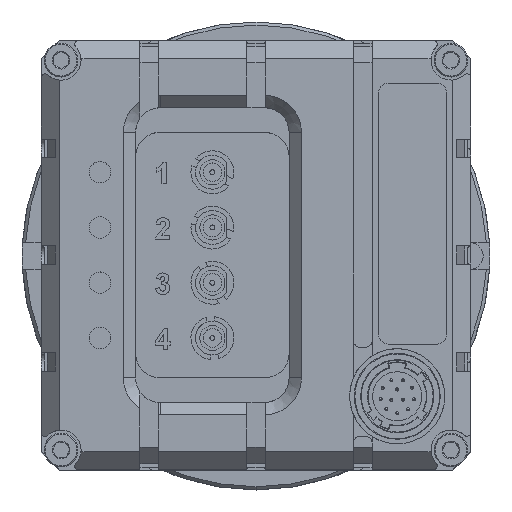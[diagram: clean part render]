
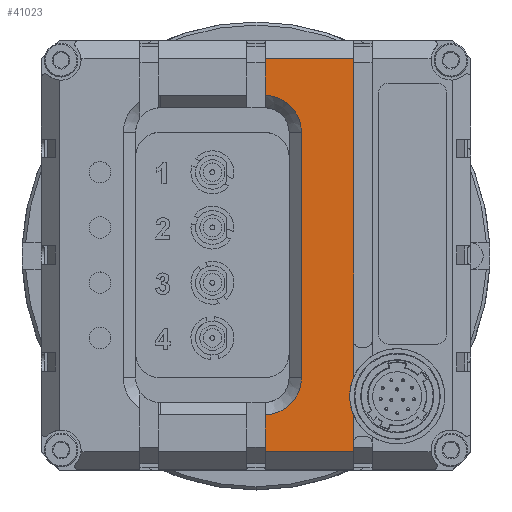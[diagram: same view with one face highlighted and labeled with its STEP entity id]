
A CAD part, top view. The second image highlights one B-rep face of the part: STEP entity #41023.
In plain terms, the highlighted planar face has unit normal (0, 0, 1).
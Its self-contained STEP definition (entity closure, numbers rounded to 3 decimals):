
#2487 = CARTESIAN_POINT ( 'NONE',  ( 1.5, 32., 12. ) ) ;
#3126 = VERTEX_POINT ( 'NONE', #5417 ) ;
#5148 = CARTESIAN_POINT ( 'NONE',  ( 32., -32., 12. ) ) ;
#5417 = CARTESIAN_POINT ( 'NONE',  ( 15.9, -26.107, 12. ) ) ;
#5679 = DIRECTION ( 'NONE',  ( 1., 0., 0. ) ) ;
#6121 = CARTESIAN_POINT ( 'NONE',  ( 1.5, -30., 12. ) ) ;
#6246 = VERTEX_POINT ( 'NONE', #38100 ) ;
#6299 = CARTESIAN_POINT ( 'NONE',  ( 1.5, 25.999, 12. ) ) ;
#6970 = LINE ( 'NONE', #24279, #42531 ) ;
#8362 = EDGE_LOOP ( 'NONE', ( #40048, #19640, #44147, #48280, #38816, #25274, #50206, #41140, #15333, #32442, #10040 ) ) ;
#9246 = VERTEX_POINT ( 'NONE', #57881 ) ;
#9666 = PLANE ( 'NONE',  #31783 ) ;
#10040 = ORIENTED_EDGE ( 'NONE', *, *, #54249, .T. ) ;
#10242 = CIRCLE ( 'NONE', #45947, 7.75 ) ;
#12239 = LINE ( 'NONE', #32776, #17543 ) ;
#14348 = EDGE_CURVE ( 'Defeatured_0_1013+Defeatured_0_1095+Defeatured_0_998+Defeatured_0_1057', #3126, #58111, #29668, .T. ) ;
#14709 = DIRECTION ( 'NONE',  ( -1., 0., 0. ) ) ;
#14725 = CARTESIAN_POINT ( 'NONE',  ( 0., 0., 12. ) ) ;
#14763 = DIRECTION ( 'NONE',  ( 1., 0., 0. ) ) ;
#15333 = ORIENTED_EDGE ( 'NONE', *, *, #45117, .T. ) ;
#15789 = DIRECTION ( 'NONE',  ( 0., 0., 1. ) ) ;
#16064 = LINE ( 'NONE', #38467, #53148 ) ;
#17334 = VECTOR ( 'NONE', #43254, 1000. ) ;
#17543 = VECTOR ( 'NONE', #37215, 1000. ) ;
#18790 = CARTESIAN_POINT ( 'NONE',  ( 15.25, -23., 12. ) ) ;
#19640 = ORIENTED_EDGE ( 'NONE', *, *, #26785, .T. ) ;
#19647 = LINE ( 'NONE', #48204, #28749 ) ;
#19687 = CARTESIAN_POINT ( 'NONE',  ( 23., -23., 12. ) ) ;
#20056 = DIRECTION ( 'NONE',  ( 1., 0., 0. ) ) ;
#20496 = DIRECTION ( 'NONE',  ( 0., 0., -1. ) ) ;
#22629 = AXIS2_PLACEMENT_3D ( 'NONE', #32820, #61107, #23286 ) ;
#23286 = DIRECTION ( 'NONE',  ( 1., 0., 0. ) ) ;
#24279 = CARTESIAN_POINT ( 'NONE',  ( -32., 32., 12. ) ) ;
#24379 = CARTESIAN_POINT ( 'NONE',  ( 15.9, -32., 12. ) ) ;
#24526 = DIRECTION ( 'NONE',  ( 0., -1., 0. ) ) ;
#25274 = ORIENTED_EDGE ( 'NONE', *, *, #49094, .F. ) ;
#25546 = CARTESIAN_POINT ( 'NONE',  ( 1.4, -20., 12. ) ) ;
#25923 = DIRECTION ( 'NONE',  ( 0., -1., 0. ) ) ;
#26690 = CIRCLE ( 'NONE', #46855, 7.75 ) ;
#26785 = EDGE_CURVE ( 'Defeatured_0_1095+Defeatured_0_907+Defeatured_0_908+Defeatured_0_1036', #59040, #35891, #46160, .T. ) ;
#26842 = VERTEX_POINT ( 'NONE', #6299 ) ;
#27040 = CARTESIAN_POINT ( 'NONE',  ( 15.9, -19.893, 12. ) ) ;
#27475 = CARTESIAN_POINT ( 'NONE',  ( 1.5, -25.999, 12. ) ) ;
#28699 = LINE ( 'NONE', #5148, #17334 ) ;
#28749 = VECTOR ( 'NONE', #24526, 1000. ) ;
#29668 = LINE ( 'NONE', #45177, #50089 ) ;
#31783 = AXIS2_PLACEMENT_3D ( 'NONE', #14725, #62518, #43543 ) ;
#32442 = ORIENTED_EDGE ( 'NONE', *, *, #54875, .T. ) ;
#32776 = CARTESIAN_POINT ( 'NONE',  ( 7.4, -20., 12. ) ) ;
#32789 = CIRCLE ( 'NONE', #22629, 6. ) ;
#32820 = CARTESIAN_POINT ( 'NONE',  ( 1.4, 20., 12. ) ) ;
#33342 = EDGE_CURVE ( 'Defeatured_0_1095+Defeatured_0_908+Defeatured_0_909+Defeatured_0_907', #9246, #59040, #12239, .T. ) ;
#35531 = DIRECTION ( 'NONE',  ( 0., -1., 0. ) ) ;
#35573 = CARTESIAN_POINT ( 'NONE',  ( 7.4, -20., 12. ) ) ;
#35891 = VERTEX_POINT ( 'NONE', #27475 ) ;
#37215 = DIRECTION ( 'NONE',  ( 0., -1., 0. ) ) ;
#38100 = CARTESIAN_POINT ( 'NONE',  ( 1.5, -32., 12. ) ) ;
#38467 = CARTESIAN_POINT ( 'NONE',  ( 1.5, -30., 12. ) ) ;
#38816 = ORIENTED_EDGE ( 'NONE', *, *, #14348, .F. ) ;
#38889 = DIRECTION ( 'NONE',  ( 0., -1., 0. ) ) ;
#39915 = VERTEX_POINT ( 'NONE', #27040 ) ;
#40048 = ORIENTED_EDGE ( 'NONE', *, *, #33342, .T. ) ;
#40353 = VECTOR ( 'NONE', #35531, 1000. ) ;
#41023 = ADVANCED_FACE ( 'Defeatured_0_1095', ( #49206 ), #9666, .T. ) ;
#41140 = ORIENTED_EDGE ( 'NONE', *, *, #60289, .F. ) ;
#41500 = EDGE_CURVE ( 'Defeatured_0_1095+Defeatured_0_1057+Defeatured_0_1036+Defeatured_0_1013', #6246, #58111, #28699, .T. ) ;
#42531 = VECTOR ( 'NONE', #14709, 1000. ) ;
#43254 = DIRECTION ( 'NONE',  ( 1., 0., 0. ) ) ;
#43543 = DIRECTION ( 'NONE',  ( 1., 0., 0. ) ) ;
#44017 = EDGE_CURVE ( 'Defeatured_0_998+Defeatured_0_1095+Defeatured_0_1087+Defeatured_0_1013', #39915, #54736, #26690, .T. ) ;
#44147 = ORIENTED_EDGE ( 'NONE', *, *, #44698, .T. ) ;
#44698 = EDGE_CURVE ( 'Defeatured_0_1095+Defeatured_0_1036+Defeatured_0_907+Defeatured_0_1057', #35891, #6246, #55443, .T. ) ;
#45117 = EDGE_CURVE ( 'Defeatured_0_1095+Defeatured_0_1058+Defeatured_0_1087+Defeatured_0_1100', #47566, #60617, #6970, .T. ) ;
#45177 = CARTESIAN_POINT ( 'NONE',  ( 15.9, 30., 12. ) ) ;
#45947 = AXIS2_PLACEMENT_3D ( 'NONE', #54496, #15789, #20056 ) ;
#46160 = CIRCLE ( 'NONE', #51374, 6. ) ;
#46855 = AXIS2_PLACEMENT_3D ( 'NONE', #19687, #58559, #14763 ) ;
#47566 = VERTEX_POINT ( 'NONE', #53565 ) ;
#48204 = CARTESIAN_POINT ( 'NONE',  ( 15.9, 30., 12. ) ) ;
#48280 = ORIENTED_EDGE ( 'NONE', *, *, #41500, .T. ) ;
#49094 = EDGE_CURVE ( 'Defeatured_0_998+Defeatured_0_1095+Defeatured_0_1087+Defeatured_0_1013', #54736, #3126, #10242, .T. ) ;
#49206 = FACE_OUTER_BOUND ( 'NONE', #8362, .T. ) ;
#50089 = VECTOR ( 'NONE', #25923, 1000. ) ;
#50206 = ORIENTED_EDGE ( 'NONE', *, *, #44017, .F. ) ;
#51374 = AXIS2_PLACEMENT_3D ( 'NONE', #25546, #20496, #5679 ) ;
#53148 = VECTOR ( 'NONE', #38889, 1000. ) ;
#53565 = CARTESIAN_POINT ( 'NONE',  ( 15.9, 32., 12. ) ) ;
#54249 = EDGE_CURVE ( 'Defeatured_0_1095+Defeatured_0_909+Defeatured_0_1100+Defeatured_0_908', #26842, #9246, #32789, .T. ) ;
#54496 = CARTESIAN_POINT ( 'NONE',  ( 23., -23., 12. ) ) ;
#54736 = VERTEX_POINT ( 'NONE', #18790 ) ;
#54875 = EDGE_CURVE ( 'Defeatured_0_1095+Defeatured_0_1100+Defeatured_0_1058+Defeatured_0_909', #60617, #26842, #16064, .T. ) ;
#55443 = LINE ( 'NONE', #6121, #40353 ) ;
#57881 = CARTESIAN_POINT ( 'NONE',  ( 7.4, 20., 12. ) ) ;
#58111 = VERTEX_POINT ( 'NONE', #24379 ) ;
#58559 = DIRECTION ( 'NONE',  ( 0., 0., 1. ) ) ;
#59040 = VERTEX_POINT ( 'NONE', #35573 ) ;
#60289 = EDGE_CURVE ( 'Defeatured_0_1087+Defeatured_0_1095+Defeatured_0_1058+Defeatured_0_998', #47566, #39915, #19647, .T. ) ;
#60617 = VERTEX_POINT ( 'NONE', #2487 ) ;
#61107 = DIRECTION ( 'NONE',  ( 0., 0., -1. ) ) ;
#62518 = DIRECTION ( 'NONE',  ( 0., 0., 1. ) ) ;
